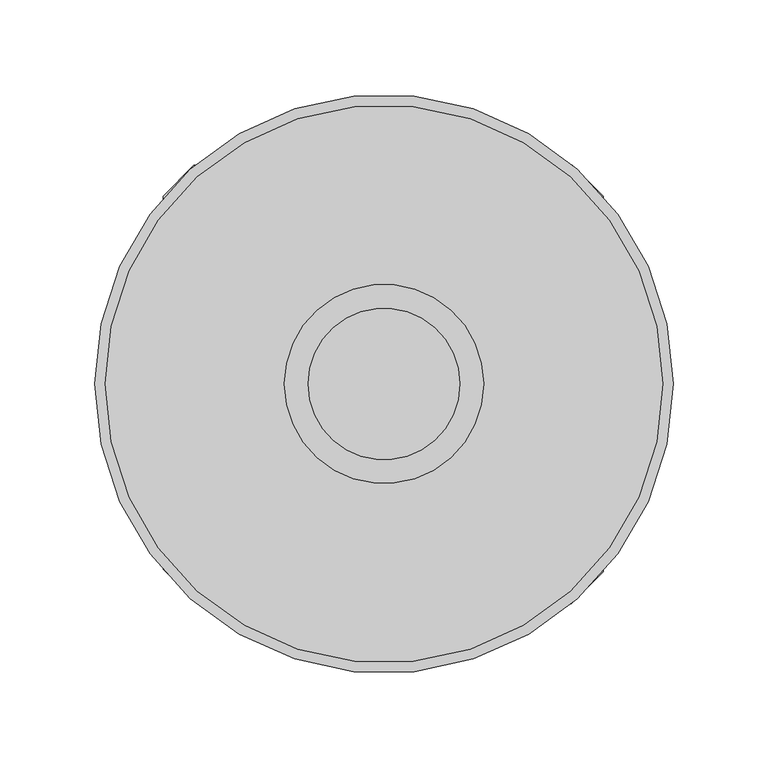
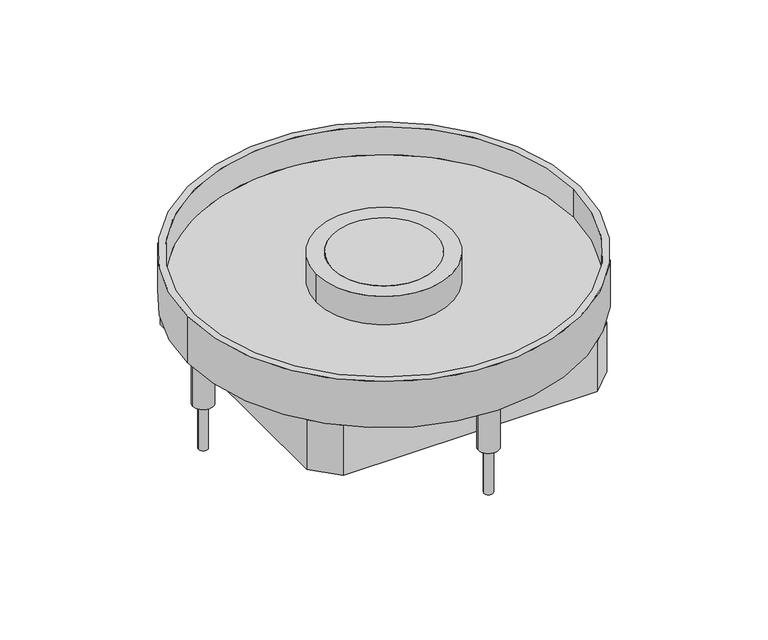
"""IFC4 building model written with IfcOpenShell, lengths in millimetres: proxy geometry, Electrical_Installation_Hager_VE-EE_EKSR1220TM-Heavy-duty-cassette-R12-with-tube-mounting-set : Stainless-steel cassette R12 TM 20 kN."""

from ifc_helpers import new_model, si_unit, point, frame, frame_2d, origin, origin_with_axes, origin_2d, place, context, project, spatial, polyline, circle_curve, trimmed, segment, composite_curve, outline, extrude, source, transform, mapped, element, save
from ifc_brep_helpers import plane_surface, cylinder_surface, revolved_surface, advanced_brep


def electrical_fixtures_4295cd90(model_context):
    return source(origin(), model_context, "Body", "SolidModel", [
        extrude(outline(composite_curve([segment(trimmed(circle_curve(origin_2d(), 40.0), [point((-40.0, 0.0))], [point((40.0, 0.0))], False, "CARTESIAN"), True, "CONTINUOUS"), segment(trimmed(circle_curve(origin_2d(), 40.0), [point((40.0, 0.0))], [point((-40.0, 0.0))], False, "CARTESIAN"), True, "CONTINUOUS")], self_intersect=False)), origin_with_axes(), (0.0, 0.0, 1.0), 2.011943),
        extrude(outline(composite_curve([segment(trimmed(circle_curve(origin_2d(), 52.5), [point((-52.5, 0.0))], [point((52.5, 0.0))], False, "CARTESIAN"), True, "CONTINUOUS"), segment(trimmed(circle_curve(origin_2d(), 52.5), [point((52.5, 0.0))], [point((-52.5, 0.0))], False, "CARTESIAN"), True, "CONTINUOUS")], self_intersect=False), holes=[composite_curve([segment(trimmed(circle_curve(origin_2d(), 40.0), [point((-40.0, 0.0))], [point((40.0, 0.0))], True, "CARTESIAN"), True, "CONTINUOUS"), segment(trimmed(circle_curve(origin_2d(), 40.0), [point((40.0, 0.0))], [point((-40.0, 0.0))], True, "CARTESIAN"), True, "CONTINUOUS")], self_intersect=False)]), frame((0.0, 0.0, -35.988057), z_axis=(0.0, 0.0, 1.0), x_axis=(1.0, 0.0, 0.0)), (0.0, 0.0, 1.0), 38.0),
        extrude(outline(composite_curve([segment(trimmed(circle_curve(frame_2d((-140.5, 0.0)), 3.5), [point((-144.0, 0.0))], [point((-137.0, 0.0))], False, "CARTESIAN"), True, "CONTINUOUS"), segment(trimmed(circle_curve(frame_2d((-140.5, 0.0)), 3.5), [point((-137.0, 0.0))], [point((-144.0, 0.0))], False, "CARTESIAN"), True, "CONTINUOUS")], self_intersect=False)), frame((0.0, 0.0, -110.0), z_axis=(0.0, 0.0, 1.0), x_axis=(1.0, 0.0, 0.0)), (0.0, 0.0, 1.0), 74.011943),
        extrude(outline(composite_curve([segment(trimmed(circle_curve(frame_2d((0.0, 139.25)), 3.5), [point((-3.5, 139.25))], [point((3.5, 139.25))], False, "CARTESIAN"), True, "CONTINUOUS"), segment(trimmed(circle_curve(frame_2d((0.0, 139.25)), 3.5), [point((3.5, 139.25))], [point((-3.5, 139.25))], False, "CARTESIAN"), True, "CONTINUOUS")], self_intersect=False)), frame((0.0, 0.0, -110.0), z_axis=(0.0, 0.0, 1.0), x_axis=(1.0, 0.0, 0.0)), (0.0, 0.0, 1.0), 74.011943),
        extrude(outline(composite_curve([segment(trimmed(circle_curve(frame_2d((139.5625, 0.3125)), 3.548869), [point((136.013631, 0.3125))], [point((143.111369, 0.3125))], False, "CARTESIAN"), True, "CONTINUOUS"), segment(trimmed(circle_curve(frame_2d((139.5625, 0.3125)), 3.548869), [point((143.111369, 0.3125))], [point((136.013631, 0.3125))], False, "CARTESIAN"), True, "CONTINUOUS")], self_intersect=False)), frame((0.0, 0.0, -110.0), z_axis=(0.0, 0.0, 1.0), x_axis=(1.0, 0.0, 0.0)), (0.0, 0.0, 1.0), 74.011943),
        extrude(outline(composite_curve([segment(trimmed(circle_curve(frame_2d((0.0, -140.5)), 3.5), [point((-3.5, -140.5))], [point((3.5, -140.5))], False, "CARTESIAN"), True, "CONTINUOUS"), segment(trimmed(circle_curve(frame_2d((0.0, -140.5)), 3.5), [point((3.5, -140.5))], [point((-3.5, -140.5))], False, "CARTESIAN"), True, "CONTINUOUS")], self_intersect=False)), frame((0.0, 0.0, -110.0), z_axis=(0.0, 0.0, 1.0), x_axis=(1.0, 0.0, 0.0)), (0.0, 0.0, 1.0), 74.011943),
        advanced_brep(
        [(147.0, 0.0, -20.988057), (-147.0, 0.0, -20.988057), (-40.0, 0.0, -20.988057), (40.0, 0.0, -20.988057), (-152.5, 0.0, -35.988057), (152.5, 0.0, -35.988057), (-40.0, 0.0, -35.988057), (40.0, 0.0, -35.988057), (-152.5, 0.0, 2.011943), (152.5, 0.0, 2.011943), (-147.0, 0.0, 2.011943), (147.0, 0.0, 2.011943)],
        [
            (0, 1, circle_curve(frame((0.0, 0.0, -20.988057), z_axis=(0.0, 0.0, 1.0), x_axis=(1.0, 0.0, 0.0)), 147.0)),
            (1, 0, circle_curve(frame((0.0, 0.0, -20.988057), z_axis=(0.0, 0.0, 1.0), x_axis=(1.0, 0.0, 0.0)), 147.0)),
            (2, 3, circle_curve(frame((0.0, 0.0, -20.988057), z_axis=(0.0, 0.0, -1.0), x_axis=(1.0, 0.0, 0.0)), 40.0)),
            (3, 2, circle_curve(frame((0.0, 0.0, -20.988057), z_axis=(0.0, 0.0, -1.0), x_axis=(1.0, 0.0, 0.0)), 40.0)),
            (4, 5, circle_curve(frame((0.0, 0.0, -35.988057), z_axis=(0.0, 0.0, -1.0), x_axis=(1.0, 0.0, 0.0)), 152.5)),
            (5, 4, circle_curve(frame((0.0, 0.0, -35.988057), z_axis=(0.0, 0.0, -1.0), x_axis=(1.0, 0.0, 0.0)), 152.5)),
            (6, 7, circle_curve(frame((0.0, 0.0, -35.988057), z_axis=(0.0, 0.0, 1.0), x_axis=(1.0, 0.0, 0.0)), 40.0)),
            (7, 6, circle_curve(frame((0.0, 0.0, -35.988057), z_axis=(0.0, 0.0, 1.0), x_axis=(1.0, 0.0, 0.0)), 40.0)),
            (8, 9, circle_curve(frame((0.0, 0.0, 2.011943), z_axis=(0.0, 0.0, 1.0), x_axis=(1.0, 0.0, 0.0)), 152.5)),
            (9, 8, circle_curve(frame((0.0, 0.0, 2.011943), z_axis=(0.0, 0.0, 1.0), x_axis=(1.0, 0.0, 0.0)), 152.5)),
            (10, 11, circle_curve(frame((0.0, 0.0, 2.011943), z_axis=(0.0, 0.0, -1.0), x_axis=(1.0, 0.0, 0.0)), 147.0)),
            (11, 10, circle_curve(frame((0.0, 0.0, 2.011943), z_axis=(0.0, 0.0, -1.0), x_axis=(1.0, 0.0, 0.0)), 147.0)),
            (8, 4),
            (5, 9),
            (10, 1),
            (0, 11),
            (2, 6),
            (7, 3),
        ],
        [
            plane_surface(frame((147.0, 0.0, -20.988057), z_axis=(0.0, 0.0, 1.0), x_axis=(0.0, 1.0, 0.0))),
            plane_surface(frame((147.0, 0.0, -35.988057), z_axis=(0.0, 0.0, -1.0), x_axis=(0.0, -1.0, 0.0))),
            plane_surface(frame((152.5, 0.0, 2.011943), z_axis=(0.0, 0.0, 1.0), x_axis=(0.0, 1.0, 0.0))),
            cylinder_surface(frame((0.0, 0.0, -35.988057), z_axis=(0.0, 0.0, 1.0), x_axis=(1.0, 0.0, 0.0)), 152.5),
            revolved_surface(polyline([(147.0, 0.0, -20.988057), (147.0, 0.0, 2.011943)]), (0.0, 0.0, 0.0), (0.0, 0.0, -1.0)),
            revolved_surface(polyline([(40.0, 0.0, -35.988057), (40.0, 0.0, -20.988057)]), (0.0, 0.0, 0.0), (0.0, 0.0, -1.0)),
        ],
        [
            (0, [[1, 2], [3, 4]]),
            (1, [[5, 6], [7, 8]]),
            (2, [[9, 10], [11, 12]]),
            (3, [[-9, 13, -6, 14]]),
            (3, [[-10, -14, -5, -13]]),
            (4, [[-11, 15, -1, 16]]),
            (4, [[-12, -16, -2, -15]]),
            (5, [[-3, 17, -8, 18]]),
            (5, [[-4, -18, -7, -17]]),
        ],
    ),
        extrude(outline(polyline([(115.6459763, -99.0667905), (98.8840065, -115.8287603), (-98.3660678, -115.8287603), (-116.5, -97.6948281), (-116.5, 98.9721151), (-100.2221151, 115.25), (99.3581832, 115.25), (115.6459763, 98.9622069), (115.6459763, -99.0667905)]), holes=[polyline([(-113.5, 97.8504611), (-113.5, -98.1947584), (-98.3659981, -113.3287603), (97.8208922, -113.3287603), (113.1459763, -98.0036762), (113.1459763, 96.6575074), (97.132244, 112.6712397), (-98.6792213, 112.6712397), (-113.5, 97.8504611)])]), frame((0.0, 0.0, -76.988057), z_axis=(0.0, 0.0, 1.0), x_axis=(1.0, 0.0, 0.0)), (0.0, 0.0, 1.0), 41.0),
        extrude(outline(composite_curve([segment(trimmed(circle_curve(frame_2d((0.0, 139.25)), 8.0), [point((-8.0, 139.25))], [point((8.0, 139.25))], False, "CARTESIAN"), True, "CONTINUOUS"), segment(trimmed(circle_curve(frame_2d((0.0, 139.25)), 8.0), [point((8.0, 139.25))], [point((-8.0, 139.25))], False, "CARTESIAN"), True, "CONTINUOUS")], self_intersect=False)), frame((0.0, 0.0, -72.988057), z_axis=(0.0, 0.0, 1.0), x_axis=(1.0, 0.0, 0.0)), (0.0, 0.0, 1.0), 37.0),
        extrude(outline(composite_curve([segment(trimmed(circle_curve(frame_2d((139.25, 0.0)), 8.0), [point((131.25, 0.0))], [point((147.25, 0.0))], False, "CARTESIAN"), True, "CONTINUOUS"), segment(trimmed(circle_curve(frame_2d((139.25, 0.0)), 8.0), [point((147.25, 0.0))], [point((131.25, 0.0))], False, "CARTESIAN"), True, "CONTINUOUS")], self_intersect=False)), frame((0.0, 0.0, -72.988057), z_axis=(0.0, 0.0, 1.0), x_axis=(1.0, 0.0, 0.0)), (0.0, 0.0, 1.0), 37.0),
        extrude(outline(composite_curve([segment(trimmed(circle_curve(frame_2d((0.0, -140.5)), 8.0), [point((-8.0, -140.5))], [point((8.0, -140.5))], False, "CARTESIAN"), True, "CONTINUOUS"), segment(trimmed(circle_curve(frame_2d((0.0, -140.5)), 8.0), [point((8.0, -140.5))], [point((-8.0, -140.5))], False, "CARTESIAN"), True, "CONTINUOUS")], self_intersect=False)), frame((0.0, 0.0, -72.988057), z_axis=(0.0, 0.0, 1.0), x_axis=(1.0, 0.0, 0.0)), (0.0, 0.0, 1.0), 37.0),
        extrude(outline(composite_curve([segment(trimmed(circle_curve(frame_2d((-140.5, 0.0)), 8.0), [point((-148.5, 0.0))], [point((-132.5, 0.0))], False, "CARTESIAN"), True, "CONTINUOUS"), segment(trimmed(circle_curve(frame_2d((-140.5, 0.0)), 8.0), [point((-132.5, 0.0))], [point((-148.5, 0.0))], False, "CARTESIAN"), True, "CONTINUOUS")], self_intersect=False)), frame((0.0, 0.0, -72.988057), z_axis=(0.0, 0.0, 1.0), x_axis=(1.0, 0.0, 0.0)), (0.0, 0.0, 1.0), 37.0),
    ])


if __name__ == "__main__":
    model = new_model("IFC4")
    model_context = context("Model", 3, world=origin())
    ifc_project = project(units=[si_unit("LENGTHUNIT", "METRE", prefix="MILLI")], contexts=[model_context])
    site = spatial("IfcSite", under=ifc_project)
    building = spatial("IfcBuilding", under=site)
    placement = place(None, origin())
    electrical_fixtures_shape = electrical_fixtures_4295cd90(model_context)
    element("IfcBuildingElementProxy", 1, Name="Electrical_Installation_Hager_VE-EE_EKSR1220TM-Heavy-duty-cassette-R12-with-tube-mounting-set : Stainless-steel cassette R12 TM 20 kN", ObjectType="Electrical_Installation_Hager_VE-EE_EKSR1220TM-Heavy-duty-cassette-R12-with-tube-mounting-set : Stainless-steel cassette R12 TM 20 kN", at=placement, inside=building, context=model_context, shape_type="MappedRepresentation", body=[
        mapped(electrical_fixtures_shape, transform((0.0, 0.0, 0.0), x_axis=(1.0, 0.0, 0.0), y_axis=(0.0, 1.0, 0.0), z_axis=(0.0, 0.0, 1.0))),
    ])
    save(model, "model.ifc")
